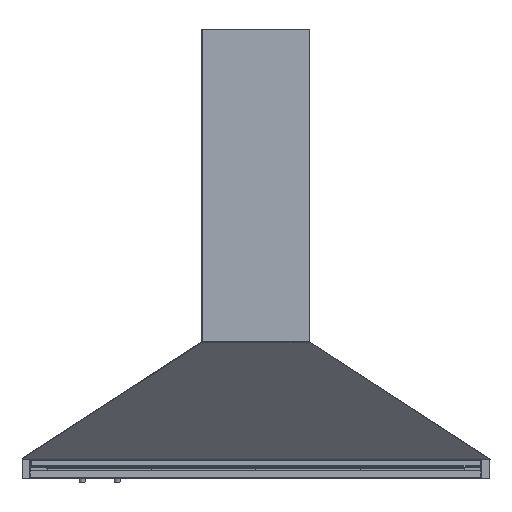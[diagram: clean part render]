
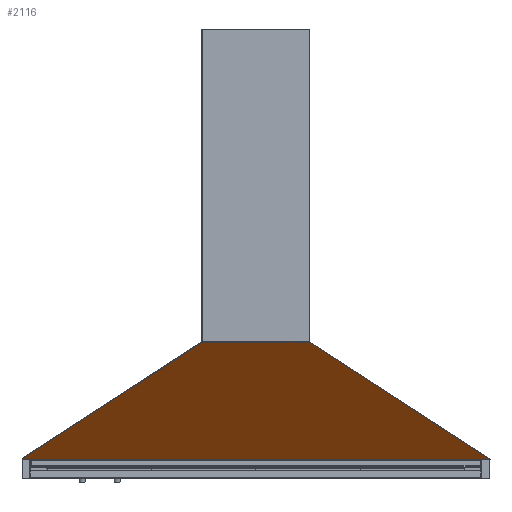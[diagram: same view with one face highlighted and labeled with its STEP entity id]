
A CAD part, left-side view. The second image highlights one B-rep face of the part: STEP entity #2116.
In plain terms, the highlighted planar face has unit normal (-0.743, 0, -0.669).
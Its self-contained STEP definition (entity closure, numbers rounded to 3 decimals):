
#1571=CARTESIAN_POINT('Vertex',(-270.884,-136.908,299.801)) ;
#1624=CARTESIAN_POINT('Vertex',(-270.965,-136.908,299.891)) ;
#1663=CARTESIAN_POINT('Vertex',(-270.884,136.908,299.801)) ;
#1709=CARTESIAN_POINT('Vertex',(-270.965,136.908,299.891)) ;
#1829=CARTESIAN_POINT('Vertex',(-1.656,598.183,0.794)) ;
#1852=CARTESIAN_POINT('Line Origine',(-270.884,0.,299.801)) ;
#1875=CARTESIAN_POINT('Vertex',(-0.52,-600.13,-0.468)) ;
#1878=CARTESIAN_POINT('Line Origine',(-135.586,-368.788,149.537)) ;
#1895=CARTESIAN_POINT('Line Origine',(-135.586,368.788,149.537)) ;
#1986=CARTESIAN_POINT('Line Origine',(-270.925,-136.908,299.846)) ;
#2013=CARTESIAN_POINT('Line Origine',(-270.925,136.908,299.846)) ;
#2080=CARTESIAN_POINT('Vertex',(-0.52,596.966,-0.468)) ;
#2084=CARTESIAN_POINT('Control Point',(-1.656,598.183,0.794)) ;
#2085=CARTESIAN_POINT('Control Point',(-1.307,598.064,0.405)) ;
#2086=CARTESIAN_POINT('Control Point',(-0.978,597.805,0.04)) ;
#2087=CARTESIAN_POINT('Control Point',(-0.708,597.422,-0.26)) ;
#2088=CARTESIAN_POINT('Control Point',(-0.52,596.966,-0.468)) ;
#2097=CARTESIAN_POINT('Axis2P3D Location',(-0.52,0.,-0.468)) ;
#2102=CARTESIAN_POINT('Line Origine',(-0.52,0.,-0.468)) ;
#1853=DIRECTION('Vector Direction',(0.,-1.,0.)) ;
#1879=DIRECTION('Vector Direction',(-0.44,0.753,0.489)) ;
#1896=DIRECTION('Vector Direction',(0.44,0.753,-0.489)) ;
#1987=DIRECTION('Vector Direction',(0.669,0.,-0.743)) ;
#2014=DIRECTION('Vector Direction',(0.669,0.,-0.743)) ;
#2098=DIRECTION('Axis2P3D Direction',(-0.743,0.,-0.669)) ;
#2099=DIRECTION('Axis2P3D XDirection',(0.,1.,0.)) ;
#2103=DIRECTION('Vector Direction',(0.,1.,0.)) ;
#2100=AXIS2_PLACEMENT_3D('Plane Axis2P3D',#2097,#2098,#2099) ;
#2108=ORIENTED_EDGE('',*,*,#1856,.F.) ;
#2109=ORIENTED_EDGE('',*,*,#2017,.F.) ;
#2110=ORIENTED_EDGE('',*,*,#1899,.T.) ;
#2111=ORIENTED_EDGE('',*,*,#2089,.T.) ;
#2112=ORIENTED_EDGE('',*,*,#2106,.F.) ;
#2113=ORIENTED_EDGE('',*,*,#1882,.T.) ;
#2114=ORIENTED_EDGE('',*,*,#1990,.T.) ;
#1854=VECTOR('Line Direction',#1853,1.) ;
#1880=VECTOR('Line Direction',#1879,1.) ;
#1897=VECTOR('Line Direction',#1896,1.) ;
#1988=VECTOR('Line Direction',#1987,1.) ;
#2015=VECTOR('Line Direction',#2014,1.) ;
#2104=VECTOR('Line Direction',#2103,1.) ;
#2116=ADVANCED_FACE('Involucro',(#2115),#2101,.T.) ;
#2083=B_SPLINE_CURVE_WITH_KNOTS('',4,(#2084,#2085,#2086,#2087,#2088),.UNSPECIFIED.,.F.,.U.,(5,5),(0.,3.034),.UNSPECIFIED.) ;
#1856=EDGE_CURVE('',#1664,#1572,#1855,.T.) ;
#1882=EDGE_CURVE('',#1876,#1625,#1881,.T.) ;
#1899=EDGE_CURVE('',#1710,#1830,#1898,.T.) ;
#1990=EDGE_CURVE('',#1625,#1572,#1989,.T.) ;
#2017=EDGE_CURVE('',#1710,#1664,#2016,.T.) ;
#2089=EDGE_CURVE('',#1830,#2081,#2083,.T.) ;
#2106=EDGE_CURVE('',#1876,#2081,#2105,.T.) ;
#2107=EDGE_LOOP('',(#2108,#2109,#2110,#2111,#2112,#2113,#2114)) ;
#2115=FACE_OUTER_BOUND('',#2107,.T.) ;
#1855=LINE('Line',#1852,#1854) ;
#1881=LINE('Line',#1878,#1880) ;
#1898=LINE('Line',#1895,#1897) ;
#1989=LINE('Line',#1986,#1988) ;
#2016=LINE('Line',#2013,#2015) ;
#2105=LINE('Line',#2102,#2104) ;
#2101=PLANE('',#2100) ;
#1572=VERTEX_POINT('',#1571) ;
#1625=VERTEX_POINT('',#1624) ;
#1664=VERTEX_POINT('',#1663) ;
#1710=VERTEX_POINT('',#1709) ;
#1830=VERTEX_POINT('',#1829) ;
#1876=VERTEX_POINT('',#1875) ;
#2081=VERTEX_POINT('',#2080) ;
